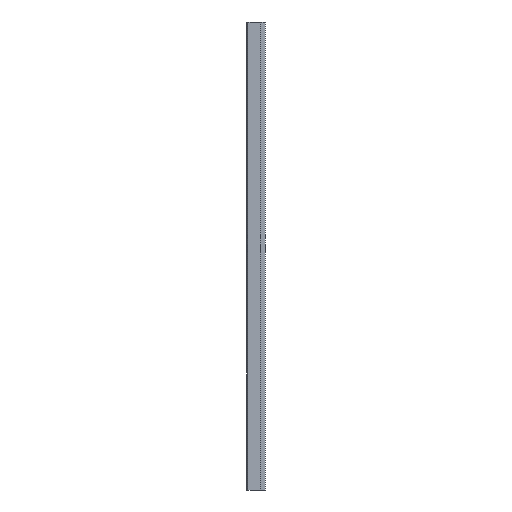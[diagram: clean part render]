
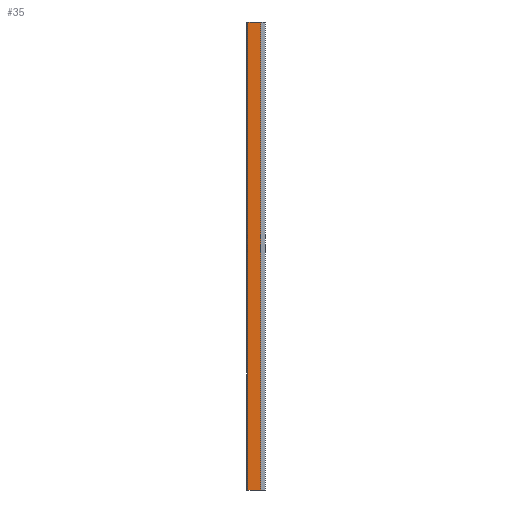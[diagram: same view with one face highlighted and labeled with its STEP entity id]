
A CAD part, left-side view. The second image highlights one B-rep face of the part: STEP entity #35.
In plain terms, the highlighted free-form (B-spline) face has degree [2, 1] with [3, 2] control points.
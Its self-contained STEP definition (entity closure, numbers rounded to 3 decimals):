
#35=ADVANCED_FACE('',(#61),#451,.T.);
#61=FACE_OUTER_BOUND('',#87,.T.);
#87=EDGE_LOOP('',(#173,#174,#175,#176));
#173=ORIENTED_EDGE('',*,*,#298,.T.);
#174=ORIENTED_EDGE('',*,*,#299,.T.);
#175=ORIENTED_EDGE('',*,*,#300,.F.);
#176=ORIENTED_EDGE('',*,*,#296,.F.);
#296=EDGE_CURVE('',#421,#422,#368,.T.);
#298=EDGE_CURVE('',#421,#423,#370,.T.);
#299=EDGE_CURVE('',#423,#424,#371,.T.);
#300=EDGE_CURVE('',#422,#424,#372,.T.);
#368=(
BOUNDED_CURVE()
B_SPLINE_CURVE(1,(#844,#845),.UNSPECIFIED.,.F.,.F.)
B_SPLINE_CURVE_WITH_KNOTS((2,2),(0.,2000.),.UNSPECIFIED.)
CURVE()
GEOMETRIC_REPRESENTATION_ITEM()
RATIONAL_B_SPLINE_CURVE((1.,1.))
REPRESENTATION_ITEM('')
);
#370=(
BOUNDED_CURVE()
B_SPLINE_CURVE(2,(#849,#850,#851),.UNSPECIFIED.,.F.,.F.)
B_SPLINE_CURVE_WITH_KNOTS((3,3),(149.219,203.493),
 .UNSPECIFIED.)
CURVE()
GEOMETRIC_REPRESENTATION_ITEM()
RATIONAL_B_SPLINE_CURVE((1.,1.,1.))
REPRESENTATION_ITEM('')
);
#371=(
BOUNDED_CURVE()
B_SPLINE_CURVE(1,(#852,#853),.UNSPECIFIED.,.F.,.F.)
B_SPLINE_CURVE_WITH_KNOTS((2,2),(0.,2000.),.UNSPECIFIED.)
CURVE()
GEOMETRIC_REPRESENTATION_ITEM()
RATIONAL_B_SPLINE_CURVE((1.,1.))
REPRESENTATION_ITEM('')
);
#372=(
BOUNDED_CURVE()
B_SPLINE_CURVE(2,(#854,#855,#856),.UNSPECIFIED.,.F.,.F.)
B_SPLINE_CURVE_WITH_KNOTS((3,3),(149.219,203.493),
 .UNSPECIFIED.)
CURVE()
GEOMETRIC_REPRESENTATION_ITEM()
RATIONAL_B_SPLINE_CURVE((1.,1.,1.))
REPRESENTATION_ITEM('')
);
#421=VERTEX_POINT('',#675);
#422=VERTEX_POINT('',#676);
#423=VERTEX_POINT('',#677);
#424=VERTEX_POINT('',#678);
#451=(
BOUNDED_SURFACE()
B_SPLINE_SURFACE(2,1,((#609,#610),(#611,#612),(#613,#614)),
 .UNSPECIFIED.,.F.,.F.,.F.)
B_SPLINE_SURFACE_WITH_KNOTS((3,3),(2,2),(149.219,203.493),
(0.,2000.),.UNSPECIFIED.)
GEOMETRIC_REPRESENTATION_ITEM()
RATIONAL_B_SPLINE_SURFACE(((1.,1.),(1.,1.),(1.,1.)))
REPRESENTATION_ITEM('')
SURFACE()
);
#609=CARTESIAN_POINT('',(7.295,8.14,0.));
#610=CARTESIAN_POINT('',(7.295,8.14,2000.));
#611=CARTESIAN_POINT('',(7.295,-18.996,0.));
#612=CARTESIAN_POINT('',(7.295,-18.996,2000.));
#613=CARTESIAN_POINT('',(7.295,-46.133,0.));
#614=CARTESIAN_POINT('',(7.295,-46.133,2000.));
#675=CARTESIAN_POINT('',(7.295,8.14,0.));
#676=CARTESIAN_POINT('',(7.295,8.14,2000.));
#677=CARTESIAN_POINT('',(7.295,-46.133,0.));
#678=CARTESIAN_POINT('',(7.295,-46.133,2000.));
#844=CARTESIAN_POINT('',(7.295,8.14,0.));
#845=CARTESIAN_POINT('',(7.295,8.14,2000.));
#849=CARTESIAN_POINT('',(7.295,8.14,0.));
#850=CARTESIAN_POINT('',(7.295,-18.996,0.));
#851=CARTESIAN_POINT('',(7.295,-46.133,0.));
#852=CARTESIAN_POINT('',(7.295,-46.133,0.));
#853=CARTESIAN_POINT('',(7.295,-46.133,2000.));
#854=CARTESIAN_POINT('',(7.295,8.14,2000.));
#855=CARTESIAN_POINT('',(7.295,-18.996,2000.));
#856=CARTESIAN_POINT('',(7.295,-46.133,2000.));
